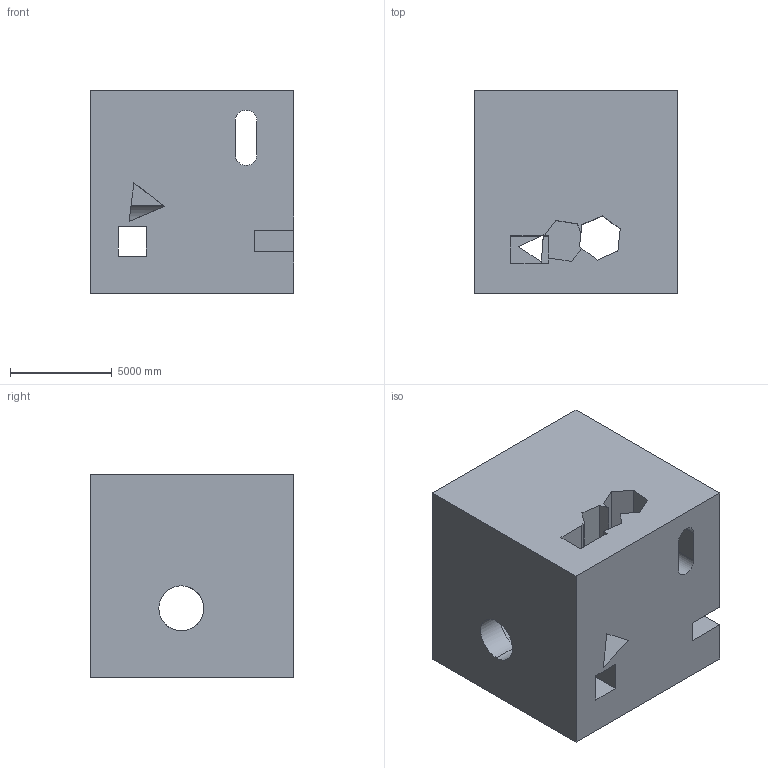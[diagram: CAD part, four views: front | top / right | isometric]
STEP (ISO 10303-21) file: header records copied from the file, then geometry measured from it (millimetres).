
FILE_DESCRIPTION (( 'STEP AP203' ), '1' );
FILE_NAME ('1865.STEP', '2022-08-19T13:41:31', ( 'user' ), ( '' ), 'SwSTEP 2.0', 'SolidWorks 2021', '' );
FILE_SCHEMA (( 'CONFIG_CONTROL_DESIGN' ));
Length unit declared in the file: centimetre
Products named in the file (1): 1865
Bounding box: 10000 x 10000 x 10000 mm (x, y, z)
Volume: 835254970010.1 mm3; surface area: 915343772.2 mm2
Topology: 1 solids, 1 shells, 56 faces, 192 edges, 128 vertices
Faces by surface type: plane 51, cylinder 5
Entity records: 2169 total; most frequent: CARTESIAN_POINT 398, ORIENTED_EDGE 384, DIRECTION 315, EDGE_CURVE 192, LINE 169, VECTOR 169, VERTEX_POINT 128, AXIS2_PLACEMENT_3D 73
